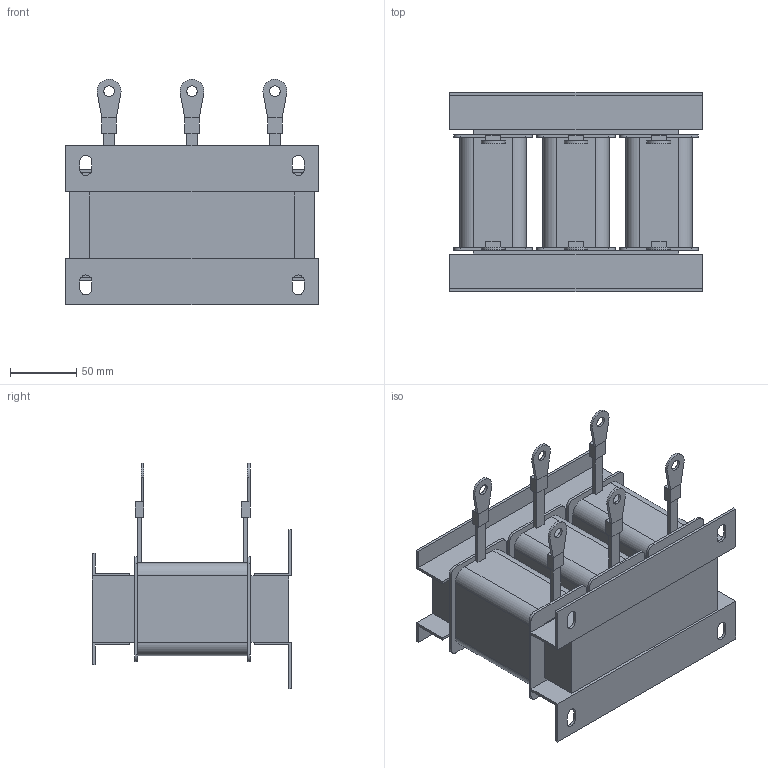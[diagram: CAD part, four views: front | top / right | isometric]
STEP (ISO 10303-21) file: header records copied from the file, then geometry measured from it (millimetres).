
FILE_DESCRIPTION(/* description */ (''),/* implementation_level */ '2;1');
FILE_NAME(/* name */ 'ACO-C-0045-T6.stp',/* time_stamp */ '2025-01-15T07:43:40+04:00',/* author */ ('Александр (огранич)'),/* organization */ (''),/* preprocessor_version */ 'ST-DEVELOPER v19.2',/* originating_system */ 'Autodesk Inventor 2024',/* authorisation */ '');
FILE_SCHEMA (('AUTOMOTIVE_DESIGN { 1 0 10303 214 3 1 1 }'));
Length unit declared in the file: millimetre
Products named in the file (1): ACO-0015-T4-4
Bounding box: 190 x 150 x 169.97 mm (x, y, z)
Volume: 1471130.5 mm3; surface area: 200318.6 mm2
Topology: 21 solids, 21 shells, 262 faces, 634 edges, 416 vertices
Faces by surface type: plane 206, cylinder 56
Full cylindrical faces by diameter (mm): 8 x6
Entity records: 7641 total; most frequent: CARTESIAN_POINT 1313, DIRECTION 1272, ORIENTED_EDGE 1268, EDGE_CURVE 634, LINE 522, VECTOR 522, VERTEX_POINT 416, AXIS2_PLACEMENT_3D 375
